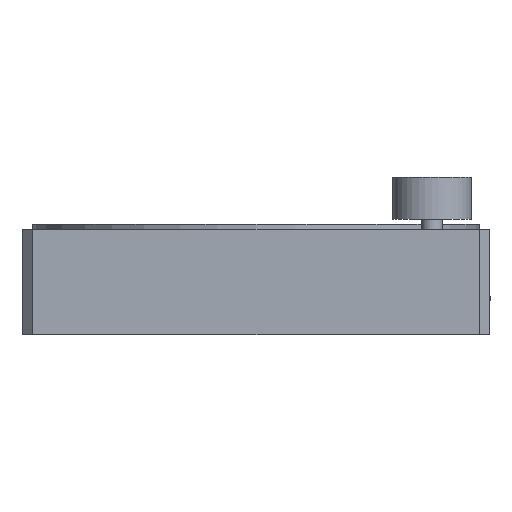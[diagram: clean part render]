
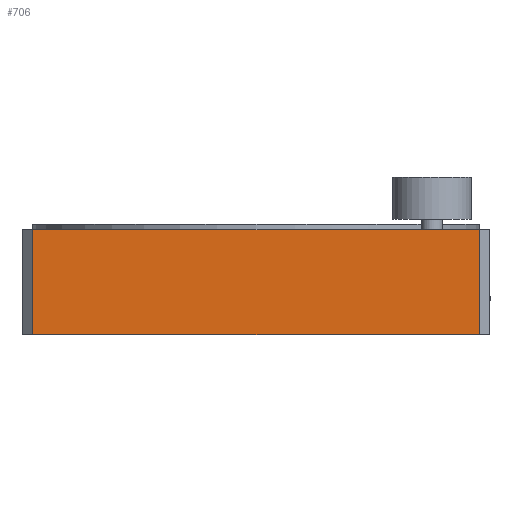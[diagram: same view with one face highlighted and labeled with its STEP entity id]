
A CAD part, front view. The second image highlights one B-rep face of the part: STEP entity #706.
In plain terms, the highlighted planar face has unit normal (0, -1, 0).
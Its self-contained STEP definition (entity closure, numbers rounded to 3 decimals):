
#200 = CARTESIAN_POINT ( 'NONE',  ( 42.5, -44.5, 20. ) ) ;
#496 = VERTEX_POINT ( 'NONE', #7399 ) ;
#705 = LINE ( 'NONE', #2200, #10042 ) ;
#706 = ADVANCED_FACE ( 'NONE', ( #10535 ), #8878, .F. ) ;
#772 = CARTESIAN_POINT ( 'NONE',  ( -44.5, -44.5, 20. ) ) ;
#1086 = EDGE_CURVE ( 'NONE', #4186, #9541, #705, .T. ) ;
#1432 = VERTEX_POINT ( 'NONE', #7952 ) ;
#1615 = DIRECTION ( 'NONE',  ( 0., 0., -1. ) ) ;
#2070 = LINE ( 'NONE', #6076, #3088 ) ;
#2092 = ORIENTED_EDGE ( 'NONE', *, *, #4116, .T. ) ;
#2151 = LINE ( 'NONE', #9507, #10374 ) ;
#2200 = CARTESIAN_POINT ( 'NONE',  ( -44.5, -44.5, 20. ) ) ;
#2386 = ORIENTED_EDGE ( 'NONE', *, *, #3256, .T. ) ;
#2653 = AXIS2_PLACEMENT_3D ( 'NONE', #772, #7227, #5525 ) ;
#3088 = VECTOR ( 'NONE', #6023, 1000. ) ;
#3256 = EDGE_CURVE ( 'NONE', #4186, #496, #8871, .T. ) ;
#4116 = EDGE_CURVE ( 'NONE', #496, #1432, #2151, .T. ) ;
#4186 = VERTEX_POINT ( 'NONE', #9727 ) ;
#4983 = CARTESIAN_POINT ( 'NONE',  ( -42.5, -44.5, 20. ) ) ;
#5403 = DIRECTION ( 'NONE',  ( 1., 0., 0. ) ) ;
#5525 = DIRECTION ( 'NONE',  ( 1., 0., 0. ) ) ;
#6023 = DIRECTION ( 'NONE',  ( 0., 0., 1. ) ) ;
#6076 = CARTESIAN_POINT ( 'NONE',  ( 42.5, -44.5, 20. ) ) ;
#6331 = ORIENTED_EDGE ( 'NONE', *, *, #1086, .F. ) ;
#7130 = VECTOR ( 'NONE', #1615, 1000. ) ;
#7227 = DIRECTION ( 'NONE',  ( 0., 1., 0. ) ) ;
#7399 = CARTESIAN_POINT ( 'NONE',  ( -42.5, -44.5, 0. ) ) ;
#7952 = CARTESIAN_POINT ( 'NONE',  ( 42.5, -44.5, 0. ) ) ;
#8756 = EDGE_LOOP ( 'NONE', ( #2092, #9798, #6331, #2386 ) ) ;
#8871 = LINE ( 'NONE', #4983, #7130 ) ;
#8878 = PLANE ( 'NONE',  #2653 ) ;
#9246 = EDGE_CURVE ( 'NONE', #1432, #9541, #2070, .T. ) ;
#9507 = CARTESIAN_POINT ( 'NONE',  ( -44.5, -44.5, 0. ) ) ;
#9541 = VERTEX_POINT ( 'NONE', #200 ) ;
#9727 = CARTESIAN_POINT ( 'NONE',  ( -42.5, -44.5, 20. ) ) ;
#9798 = ORIENTED_EDGE ( 'NONE', *, *, #9246, .T. ) ;
#10042 = VECTOR ( 'NONE', #10359, 1000. ) ;
#10359 = DIRECTION ( 'NONE',  ( 1., 0., 0. ) ) ;
#10374 = VECTOR ( 'NONE', #5403, 1000. ) ;
#10535 = FACE_OUTER_BOUND ( 'NONE', #8756, .T. ) ;
